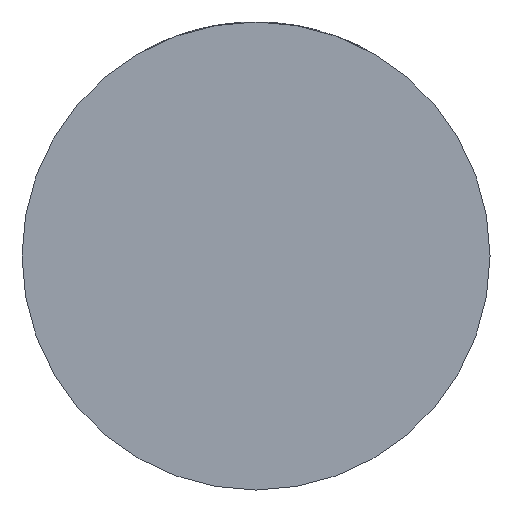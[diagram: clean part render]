
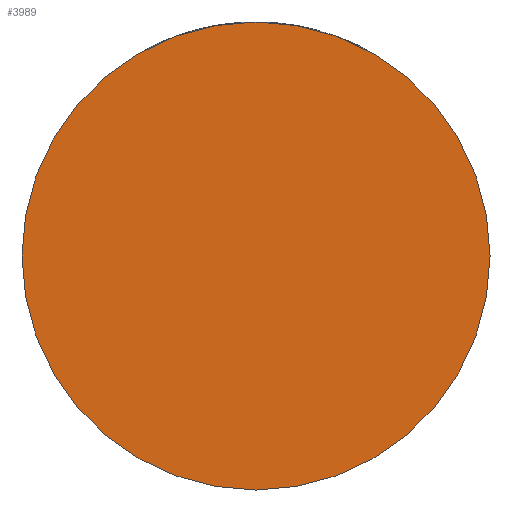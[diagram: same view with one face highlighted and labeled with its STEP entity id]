
A CAD part, front view. The second image highlights one B-rep face of the part: STEP entity #3989.
In plain terms, the highlighted planar face has unit normal (0, -1, 0).
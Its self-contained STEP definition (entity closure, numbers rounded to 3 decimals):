
#208 = DIRECTION ( 'NONE',  ( 0., -1., 0. ) ) ;
#270 = DIRECTION ( 'NONE',  ( 1., 0., 0. ) ) ;
#277 = FACE_OUTER_BOUND ( 'NONE', #3333, .T. ) ;
#338 = CARTESIAN_POINT ( 'NONE',  ( -39., -36., 0. ) ) ;
#520 = CARTESIAN_POINT ( 'NONE',  ( 0., -36., 0. ) ) ;
#566 = AXIS2_PLACEMENT_3D ( 'NONE', #520, #881, #1900 ) ;
#658 = DIRECTION ( 'NONE',  ( 0., -1., 0. ) ) ;
#881 = DIRECTION ( 'NONE',  ( 0., -1., 0. ) ) ;
#907 = ORIENTED_EDGE ( 'NONE', *, *, #4346, .T. ) ;
#1430 = VERTEX_POINT ( 'NONE', #3118 ) ;
#1900 = DIRECTION ( 'NONE',  ( 1., 0., 0. ) ) ;
#2022 = CIRCLE ( 'NONE', #4042, 39. ) ;
#2145 = CIRCLE ( 'NONE', #3811, 39. ) ;
#2997 = EDGE_CURVE ( 'NONE', #3169, #1430, #2145, .T. ) ;
#3035 = PLANE ( 'NONE',  #566 ) ;
#3118 = CARTESIAN_POINT ( 'NONE',  ( 39., -36., 0. ) ) ;
#3169 = VERTEX_POINT ( 'NONE', #338 ) ;
#3333 = EDGE_LOOP ( 'NONE', ( #4370, #907 ) ) ;
#3662 = DIRECTION ( 'NONE',  ( 1., 0., 0. ) ) ;
#3752 = CARTESIAN_POINT ( 'NONE',  ( 0., -36., 0. ) ) ;
#3811 = AXIS2_PLACEMENT_3D ( 'NONE', #4349, #208, #3662 ) ;
#3989 = ADVANCED_FACE ( 'NONE', ( #277 ), #3035, .T. ) ;
#4042 = AXIS2_PLACEMENT_3D ( 'NONE', #3752, #658, #270 ) ;
#4346 = EDGE_CURVE ( 'NONE', #1430, #3169, #2022, .T. ) ;
#4349 = CARTESIAN_POINT ( 'NONE',  ( 0., -36., 0. ) ) ;
#4370 = ORIENTED_EDGE ( 'NONE', *, *, #2997, .T. ) ;
